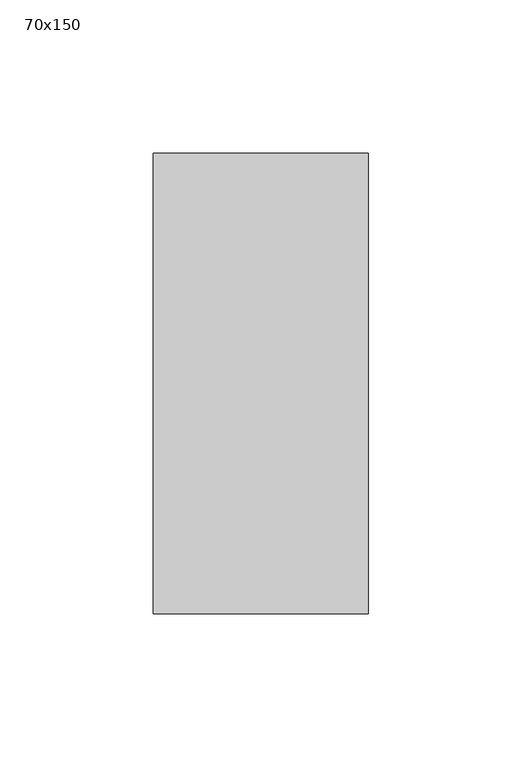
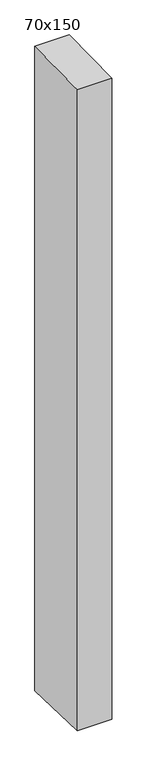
"""IFC4 building model written with IfcOpenShell, lengths in millimetres: member geometry, 長方形のマリオン : 70x150."""

from ifc_helpers import new_model, si_unit, frame, origin, place, context, project, spatial, polyline, outline, extrude, source, transform, mapped, element, save


def member_70x150_b238a0a5(model_context):
    return source(origin(), model_context, "Body", "SweptSolid", [
        extrude(outline(polyline([(-75.0, -1.3892003), (75.0, 1.3892003), (75.0, -1384.6614195), (-75.0, -1379.3489896), (-75.0, -1.3892003)])), frame((-35.0, 0.0, 0.0), z_axis=(1.0, 0.0, 0.0), x_axis=(0.0, 1.0, 0.0)), (0.0, 0.0, 1.0), 70.0),
    ])


if __name__ == "__main__":
    model = new_model("IFC4")
    model_context = context("Model", 3, world=origin())
    ifc_project = project(units=[si_unit("LENGTHUNIT", "METRE", prefix="MILLI")], contexts=[model_context])
    site = spatial("IfcSite", under=ifc_project)
    building = spatial("IfcBuilding", under=site)
    placement = place(None, origin())
    member_70x150_shape = member_70x150_b238a0a5(model_context)
    element("IfcMember", 1, ObjectType="長方形のマリオン : 70x150", at=placement, inside=building, context=model_context, shape_type="MappedRepresentation", body=[
        mapped(member_70x150_shape, transform((0.0, 0.0, 0.0), x_axis=(1.0, 0.0, 0.0), y_axis=(0.0, 1.0, 0.0), z_axis=(0.0, 0.0, 1.0))),
    ])
    save(model, "model.ifc")
